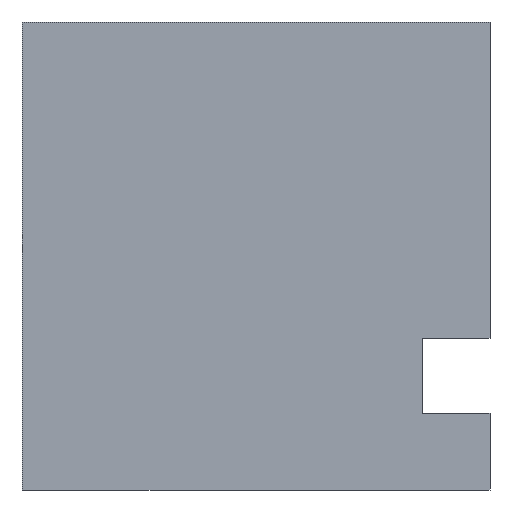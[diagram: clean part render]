
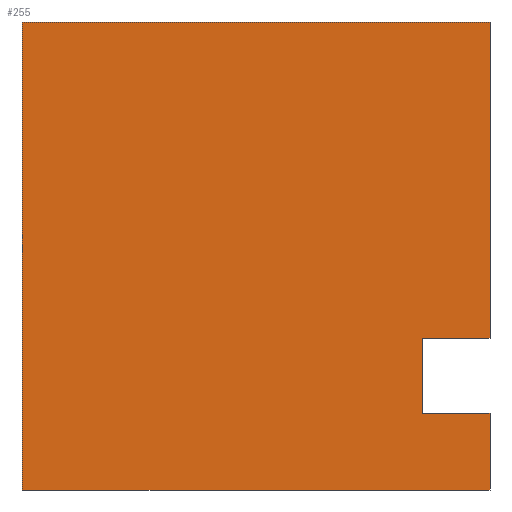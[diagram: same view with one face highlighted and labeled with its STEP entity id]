
A CAD part, left-side view. The second image highlights one B-rep face of the part: STEP entity #255.
In plain terms, the highlighted planar face has unit normal (-1, 0, 0).
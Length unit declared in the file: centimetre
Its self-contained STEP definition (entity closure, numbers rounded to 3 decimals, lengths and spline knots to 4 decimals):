
#1 = CARTESIAN_POINT ( 'NONE',  ( 0., 1000., 1000. ) ) ;
#14 = CARTESIAN_POINT ( 'NONE',  ( 0., 0., 164.306 ) ) ;
#19 = VERTEX_POINT ( 'NONE', #1610 ) ;
#43 = EDGE_CURVE ( 'NONE', #1708, #1239, #111, .T. ) ;
#77 = CARTESIAN_POINT ( 'NONE',  ( 0., 0., 1000. ) ) ;
#111 = LINE ( 'NONE', #634, #596 ) ;
#150 = CARTESIAN_POINT ( 'NONE',  ( 0., 144.2231, 164.306 ) ) ;
#161 = VERTEX_POINT ( 'NONE', #14 ) ;
#187 = EDGE_CURVE ( 'NONE', #592, #19, #1639, .T. ) ;
#191 = DIRECTION ( 'NONE',  ( 0., -1., 0. ) ) ;
#195 = VECTOR ( 'NONE', #682, 100. ) ;
#218 = LINE ( 'NONE', #77, #999 ) ;
#244 = EDGE_CURVE ( 'NONE', #19, #597, #1631, .T. ) ;
#255 = ADVANCED_FACE ( 'NONE', ( #663 ), #801, .F. ) ;
#263 = CARTESIAN_POINT ( 'NONE',  ( 0., 1000., 1000. ) ) ;
#285 = CARTESIAN_POINT ( 'NONE',  ( 0., 1000., 0. ) ) ;
#343 = ORIENTED_EDGE ( 'NONE', *, *, #769, .F. ) ;
#344 = EDGE_CURVE ( 'NONE', #592, #1708, #820, .T. ) ;
#345 = DIRECTION ( 'NONE',  ( 0., 1., 0. ) ) ;
#353 = EDGE_CURVE ( 'NONE', #436, #1329, #1388, .T. ) ;
#354 = LINE ( 'NONE', #1183, #527 ) ;
#366 = VECTOR ( 'NONE', #191, 100. ) ;
#414 = DIRECTION ( 'NONE',  ( 0., 0., -1. ) ) ;
#436 = VERTEX_POINT ( 'NONE', #1537 ) ;
#526 = ORIENTED_EDGE ( 'NONE', *, *, #353, .F. ) ;
#527 = VECTOR ( 'NONE', #345, 100. ) ;
#592 = VERTEX_POINT ( 'NONE', #1464 ) ;
#596 = VECTOR ( 'NONE', #1471, 100. ) ;
#597 = VERTEX_POINT ( 'NONE', #753 ) ;
#599 = CARTESIAN_POINT ( 'NONE',  ( 0., 0., 324.6914 ) ) ;
#601 = EDGE_CURVE ( 'NONE', #1239, #436, #354, .T. ) ;
#604 = EDGE_CURVE ( 'NONE', #161, #597, #218, .T. ) ;
#634 = CARTESIAN_POINT ( 'NONE',  ( 0., 0., 1000. ) ) ;
#663 = FACE_OUTER_BOUND ( 'NONE', #1435, .T. ) ;
#682 = DIRECTION ( 'NONE',  ( 0., -1., 0. ) ) ;
#684 = VECTOR ( 'NONE', #1519, 100. ) ;
#690 = DIRECTION ( 'NONE',  ( 0., 0., -1. ) ) ;
#753 = CARTESIAN_POINT ( 'NONE',  ( 0., 0., 0. ) ) ;
#757 = CARTESIAN_POINT ( 'NONE',  ( 0., 0., 1000. ) ) ;
#769 = EDGE_CURVE ( 'NONE', #1329, #161, #1389, .T. ) ;
#801 = PLANE ( 'NONE',  #831 ) ;
#820 = LINE ( 'NONE', #1, #684 ) ;
#831 = AXIS2_PLACEMENT_3D ( 'NONE', #1216, #1527, #414 ) ;
#887 = CARTESIAN_POINT ( 'NONE',  ( 0., 144.2231, 164.306 ) ) ;
#999 = VECTOR ( 'NONE', #1047, 100. ) ;
#1024 = ORIENTED_EDGE ( 'NONE', *, *, #244, .T. ) ;
#1047 = DIRECTION ( 'NONE',  ( 0., 0., -1. ) ) ;
#1120 = VECTOR ( 'NONE', #1655, 100. ) ;
#1159 = ORIENTED_EDGE ( 'NONE', *, *, #344, .F. ) ;
#1183 = CARTESIAN_POINT ( 'NONE',  ( 0., 0., 324.6914 ) ) ;
#1216 = CARTESIAN_POINT ( 'NONE',  ( 0., 1000., 1000. ) ) ;
#1239 = VERTEX_POINT ( 'NONE', #599 ) ;
#1282 = CARTESIAN_POINT ( 'NONE',  ( 0., 0., 164.306 ) ) ;
#1328 = ORIENTED_EDGE ( 'NONE', *, *, #43, .F. ) ;
#1329 = VERTEX_POINT ( 'NONE', #887 ) ;
#1388 = LINE ( 'NONE', #150, #1689 ) ;
#1389 = LINE ( 'NONE', #1282, #366 ) ;
#1435 = EDGE_LOOP ( 'NONE', ( #1590, #343, #526, #1633, #1328, #1159, #1580, #1024 ) ) ;
#1464 = CARTESIAN_POINT ( 'NONE',  ( 0., 1000., 1000. ) ) ;
#1471 = DIRECTION ( 'NONE',  ( 0., 0., -1. ) ) ;
#1519 = DIRECTION ( 'NONE',  ( 0., -1., 0. ) ) ;
#1527 = DIRECTION ( 'NONE',  ( 1., 0., 0. ) ) ;
#1537 = CARTESIAN_POINT ( 'NONE',  ( 0., 144.2231, 324.6914 ) ) ;
#1580 = ORIENTED_EDGE ( 'NONE', *, *, #187, .T. ) ;
#1590 = ORIENTED_EDGE ( 'NONE', *, *, #604, .F. ) ;
#1610 = CARTESIAN_POINT ( 'NONE',  ( 0., 1000., 0. ) ) ;
#1631 = LINE ( 'NONE', #285, #195 ) ;
#1633 = ORIENTED_EDGE ( 'NONE', *, *, #601, .F. ) ;
#1639 = LINE ( 'NONE', #263, #1120 ) ;
#1655 = DIRECTION ( 'NONE',  ( 0., 0., -1. ) ) ;
#1689 = VECTOR ( 'NONE', #690, 100. ) ;
#1708 = VERTEX_POINT ( 'NONE', #757 ) ;
